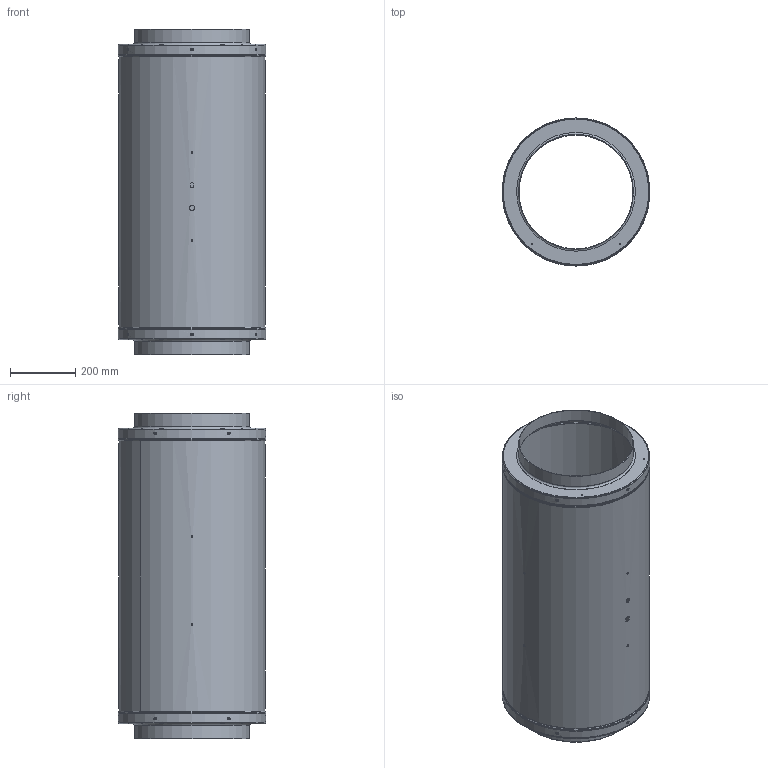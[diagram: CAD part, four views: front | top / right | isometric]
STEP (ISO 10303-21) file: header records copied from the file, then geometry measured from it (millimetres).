
FILE_DESCRIPTION(/* description */ (''),/* implementation_level */ '2;1');
FILE_NAME(/* name */ '355J.stp',/* time_stamp */ '2024-01-19T16:27:18+08:00',/* author */ (''),/* organization */ (''),/* preprocessor_version */ 'ST-DEVELOPER v20',/* originating_system */ 'SIEMENS PLM Software NX2312.1700',/* authorisation */ '');
FILE_SCHEMA (('AP203_CONFIGURATION_CONTROLLED_3D_DESIGN_OF_MECHANICAL_PARTS_AND_ASSEMBLIES_MIM_LF { 1 0 10303 403 2 1 2}'));
Length unit declared in the file: millimetre
Products named in the file (1): 355消音筒_objects
Bounding box: 453.2 x 453.2 x 1000 mm (x, y, z)
Volume: 1638973.2 mm3; surface area: 3167745.6 mm2
Topology: 5 solids, 5 shells, 182 faces, 520 edges, 348 vertices
Faces by surface type: cylinder 86, plane 64, torus 24, cone 8
Full cylindrical faces by diameter (mm): 5.2 x4, 5.5 x8, 350.6 x2, 353 x2, 448 x3, 450 x3, 450.8 x2, 452.4 x2, 453.2 x2, 454.4 x2
Entity records: 9714 total; most frequent: CARTESIAN_POINT 5300, ORIENTED_EDGE 936, DIRECTION 728, EDGE_CURVE 468, VERTEX_POINT 328, AXIS2_PLACEMENT_3D 296, EDGE_LOOP 290, B_SPLINE_CURVE_WITH_KNOTS 216
